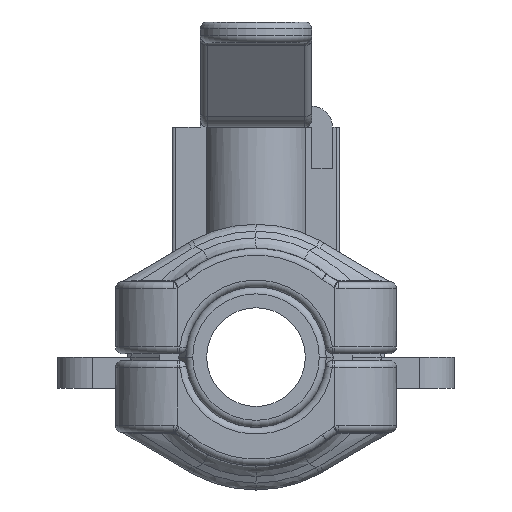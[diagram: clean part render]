
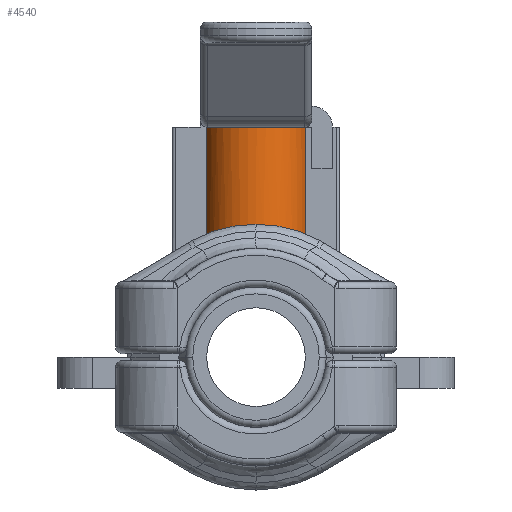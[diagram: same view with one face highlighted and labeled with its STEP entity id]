
A CAD part, left-side view. The second image highlights one B-rep face of the part: STEP entity #4540.
In plain terms, the highlighted cylindrical face has radius 7.611 mm (diameter 15.223 mm), a partial arc.
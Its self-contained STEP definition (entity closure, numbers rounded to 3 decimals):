
#1492=CARTESIAN_POINT('',(48.01,7.104,33.592));
#1493=CARTESIAN_POINT('',(48.042,7.116,33.592));
#1494=CARTESIAN_POINT('',(48.107,7.141,33.592));
#1495=CARTESIAN_POINT('',(48.172,7.164,33.593));
#1496=CARTESIAN_POINT('',(48.205,7.176,33.594));
#1501=CARTESIAN_POINT('',(50.743,0.,33.592));
#1502=DIRECTION('',(0.,0.,1.));
#1503=DIRECTION('',(-0.359,0.933,0.));
#1504=AXIS2_PLACEMENT_3D('',#1501,#1502,#1503);
#1509=DIRECTION('',(0.,0.,1.));
#1510=VECTOR('',#1509,16.793);
#1511=CARTESIAN_POINT('',(48.205,-7.176,16.799));
#1512=LINE('',#1511,#1510);
#1516=CARTESIAN_POINT('',(48.205,-7.176,16.799));
#1517=CARTESIAN_POINT('',(47.72,-7.005,16.872));
#1518=CARTESIAN_POINT('',(46.776,-6.561,17.056));
#1519=CARTESIAN_POINT('',(45.488,-5.585,17.406));
#1520=CARTESIAN_POINT('',(44.435,-4.359,17.757));
#1521=CARTESIAN_POINT('',(43.678,-2.972,18.044));
#1522=CARTESIAN_POINT('',(43.23,-1.502,18.226));
#1523=CARTESIAN_POINT('',(43.082,0.,
18.288));
#1524=CARTESIAN_POINT('',(43.23,1.502,18.226));
#1525=CARTESIAN_POINT('',(43.678,2.972,18.044));
#1526=CARTESIAN_POINT('',(44.435,4.359,17.757));
#1527=CARTESIAN_POINT('',(45.487,5.585,17.406));
#1528=CARTESIAN_POINT('',(46.776,6.561,17.056));
#1529=CARTESIAN_POINT('',(47.72,7.005,16.872));
#1530=CARTESIAN_POINT('',(48.205,7.176,16.799));
#1535=DIRECTION('',(0.,0.,1.));
#1536=VECTOR('',#1535,16.795);
#1537=CARTESIAN_POINT('',(48.205,7.176,16.799));
#1538=LINE('',#1537,#1536);
#3088=VERTEX_POINT('',#1516);
#3089=VERTEX_POINT('',#1530);
#3130=CARTESIAN_POINT('',(48.205,-7.176,33.592));
#3131=VERTEX_POINT('',#3130);
#3223=CARTESIAN_POINT('',(48.01,7.104,33.592));
#3225=VERTEX_POINT('',#3223);
#3226=VERTEX_POINT('',#1496);
#4526=CARTESIAN_POINT('',(50.743,0.,33.592));
#4527=DIRECTION('',(0.,0.,1.));
#4528=DIRECTION('',(1.,0.,0.));
#4529=AXIS2_PLACEMENT_3D('',#4526,#4527,#4528);
#4530=CYLINDRICAL_SURFACE('',#4529,7.611);
#4532=ORIENTED_EDGE('',*,*,#4531,.F.);
#4533=ORIENTED_EDGE('',*,*,#4229,.T.);
#4534=ORIENTED_EDGE('',*,*,#4110,.F.);
#4535=ORIENTED_EDGE('',*,*,#4061,.T.);
#4537=ORIENTED_EDGE('',*,*,#4536,.T.);
#4538=EDGE_LOOP('',(#4532,#4533,#4534,#4535,#4537));
#4539=FACE_OUTER_BOUND('',#4538,.F.);
#1497=B_SPLINE_CURVE_WITH_KNOTS('',3,(#1492,#1493,#1494,#1495,#1496),
.UNSPECIFIED.,.F.,.F.,(4,1,4),(0.,0.5,1.),.UNSPECIFIED.);
#1505=CIRCLE('',#1504,7.611);
#1531=B_SPLINE_CURVE_WITH_KNOTS('',3,(#1516,#1517,#1518,#1519,#1520,#1521,#1522,
#1523,#1524,#1525,#1526,#1527,#1528,#1529,#1530),.UNSPECIFIED.,.F.,.F.,(4,1,1,1,
1,1,1,1,1,1,1,1,4),(0.,0.083,0.167,0.25,
0.333,0.417,0.5,0.583,0.667,
0.75,0.833,0.917,1.),.UNSPECIFIED.);
#4061=EDGE_CURVE('',#3088,#3089,#1531,.T.);
#4110=EDGE_CURVE('',#3088,#3131,#1512,.T.);
#4229=EDGE_CURVE('',#3225,#3131,#1505,.T.);
#4531=EDGE_CURVE('',#3225,#3226,#1497,.T.);
#4536=EDGE_CURVE('',#3089,#3226,#1538,.T.);
#4540=ADVANCED_FACE('',(#4539),#4530,.T.);
